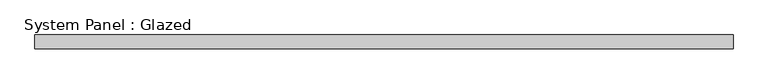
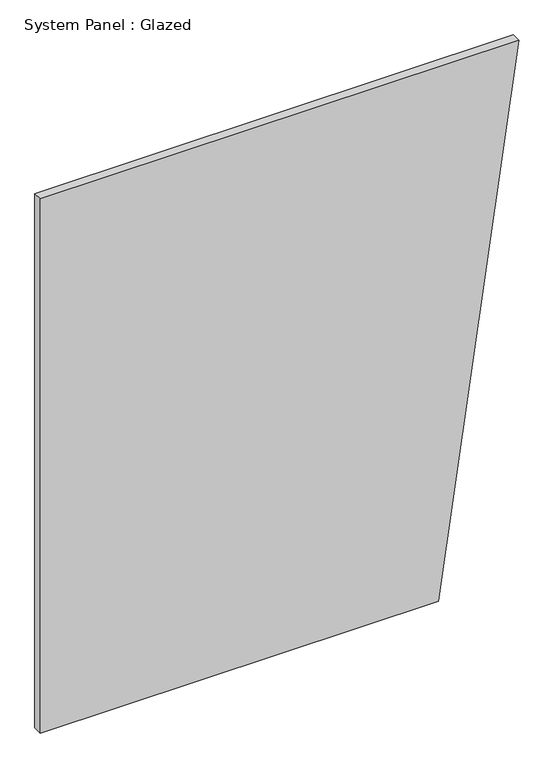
"""IFC4 building model written with IfcOpenShell, lengths in millimetres: plate geometry, System Panel : Glazed."""

from ifc_helpers import new_model, si_unit, frame, origin, place, context, project, spatial, polyline, outline, extrude, source, transform, mapped, element, save


def system_panel_glazed_878cacec(model_context):
    return source(origin(), model_context, "Body", "SweptSolid", [
        extrude(outline(polyline([(0.0, -646.4535509), (0.0, 429.4081958), (1524.0, 646.4535509), (1524.0, -646.4535509), (0.0, -646.4535509)])), frame((0.0, 19.05, 0.0), z_axis=(0.0, 1.0, 0.0), x_axis=(0.0, 0.0, 1.0)), (0.0, 0.0, 1.0), 25.4),
    ])


if __name__ == "__main__":
    model = new_model("IFC4")
    model_context = context("Model", 3, world=origin())
    ifc_project = project(units=[si_unit("LENGTHUNIT", "METRE", prefix="MILLI")], contexts=[model_context])
    site = spatial("IfcSite", under=ifc_project)
    building = spatial("IfcBuilding", under=site)
    placement = place(None, origin())
    system_panel_glazed_shape = system_panel_glazed_878cacec(model_context)
    element("IfcPlate", 1, ObjectType="System Panel : Glazed", at=placement, inside=building, context=model_context, shape_type="MappedRepresentation", body=[
        mapped(system_panel_glazed_shape, transform((0.0, 0.0, 0.0), x_axis=(1.0, 0.0, 0.0), y_axis=(0.0, 1.0, 0.0), z_axis=(0.0, 0.0, 1.0))),
    ])
    save(model, "model.ifc")
